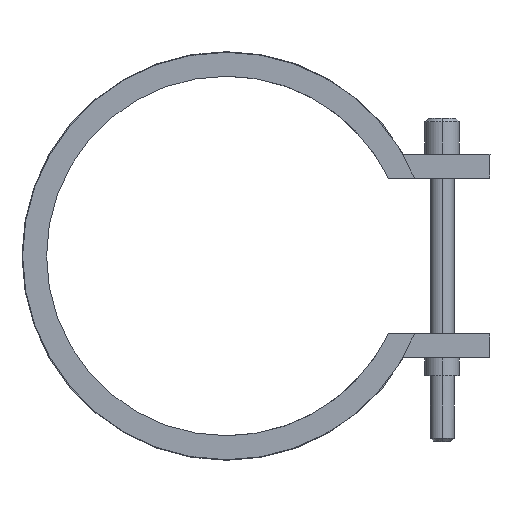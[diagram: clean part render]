
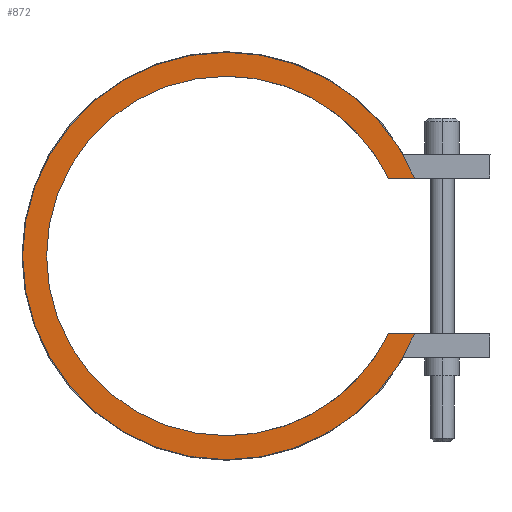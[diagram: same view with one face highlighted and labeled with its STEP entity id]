
A CAD part, left-side view. The second image highlights one B-rep face of the part: STEP entity #872.
In plain terms, the highlighted planar face has unit normal (-1, 0, 0).
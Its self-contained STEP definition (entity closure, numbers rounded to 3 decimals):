
#410=CARTESIAN_POINT('Vertex',(-25.,-27.037,-13.)) ;
#413=CARTESIAN_POINT('Line Origine',(-25.,-29.227,-13.)) ;
#417=CARTESIAN_POINT('Vertex',(-25.,-31.417,-13.)) ;
#463=CARTESIAN_POINT('Vertex',(-25.,0.,-34.)) ;
#466=CARTESIAN_POINT('Axis2P3D Location',(-25.,0.,0.)) ;
#487=CARTESIAN_POINT('Vertex',(-25.,0.,34.)) ;
#490=CARTESIAN_POINT('Axis2P3D Location',(-25.,0.,0.)) ;
#502=CARTESIAN_POINT('Axis2P3D Location',(-25.,0.,0.)) ;
#506=CARTESIAN_POINT('Vertex',(-25.,-31.417,13.)) ;
#526=CARTESIAN_POINT('Line Origine',(-25.,-29.227,13.)) ;
#530=CARTESIAN_POINT('Vertex',(-25.,-27.037,13.)) ;
#818=CARTESIAN_POINT('Axis2P3D Location',(-25.,0.,0.)) ;
#822=CARTESIAN_POINT('Vertex',(-25.,0.,-30.)) ;
#845=CARTESIAN_POINT('Axis2P3D Location',(-25.,0.,0.)) ;
#850=CARTESIAN_POINT('Axis2P3D Location',(-25.,0.,0.)) ;
#854=CARTESIAN_POINT('Vertex',(-25.,0.,30.)) ;
#857=CARTESIAN_POINT('Axis2P3D Location',(-25.,0.,0.)) ;
#414=DIRECTION('Vector Direction',(0.,1.,0.)) ;
#467=DIRECTION('Axis2P3D Direction',(1.,0.,-0.)) ;
#491=DIRECTION('Axis2P3D Direction',(1.,0.,-0.)) ;
#503=DIRECTION('Axis2P3D Direction',(1.,0.,-0.)) ;
#527=DIRECTION('Vector Direction',(0.,-1.,0.)) ;
#819=DIRECTION('Axis2P3D Direction',(1.,0.,-0.)) ;
#846=DIRECTION('Axis2P3D Direction',(1.,0.,0.)) ;
#847=DIRECTION('Axis2P3D XDirection',(0.,0.,-1.)) ;
#851=DIRECTION('Axis2P3D Direction',(1.,0.,0.)) ;
#858=DIRECTION('Axis2P3D Direction',(1.,0.,0.)) ;
#468=AXIS2_PLACEMENT_3D('Circle Axis2P3D',#466,#467,$) ;
#492=AXIS2_PLACEMENT_3D('Circle Axis2P3D',#490,#491,$) ;
#504=AXIS2_PLACEMENT_3D('Circle Axis2P3D',#502,#503,$) ;
#820=AXIS2_PLACEMENT_3D('Circle Axis2P3D',#818,#819,$) ;
#848=AXIS2_PLACEMENT_3D('Plane Axis2P3D',#845,#846,#847) ;
#852=AXIS2_PLACEMENT_3D('Circle Axis2P3D',#850,#851,$) ;
#859=AXIS2_PLACEMENT_3D('Circle Axis2P3D',#857,#858,$) ;
#863=ORIENTED_EDGE('',*,*,#419,.T.) ;
#864=ORIENTED_EDGE('',*,*,#824,.T.) ;
#865=ORIENTED_EDGE('',*,*,#856,.T.) ;
#866=ORIENTED_EDGE('',*,*,#861,.T.) ;
#867=ORIENTED_EDGE('',*,*,#532,.T.) ;
#868=ORIENTED_EDGE('',*,*,#508,.F.) ;
#869=ORIENTED_EDGE('',*,*,#494,.F.) ;
#870=ORIENTED_EDGE('',*,*,#470,.F.) ;
#415=VECTOR('Line Direction',#414,1.) ;
#528=VECTOR('Line Direction',#527,1.) ;
#872=ADVANCED_FACE('14060050',(#871),#849,.F.) ;
#469=CIRCLE('generated circle',#468,34.) ;
#493=CIRCLE('generated circle',#492,34.) ;
#505=CIRCLE('generated circle',#504,34.) ;
#821=CIRCLE('generated circle',#820,30.) ;
#853=CIRCLE('generated circle',#852,30.) ;
#860=CIRCLE('generated circle',#859,30.) ;
#419=EDGE_CURVE('',#418,#411,#416,.T.) ;
#470=EDGE_CURVE('',#418,#464,#469,.T.) ;
#494=EDGE_CURVE('',#464,#488,#493,.T.) ;
#508=EDGE_CURVE('',#488,#507,#505,.T.) ;
#532=EDGE_CURVE('',#531,#507,#529,.T.) ;
#824=EDGE_CURVE('',#411,#823,#821,.T.) ;
#856=EDGE_CURVE('',#823,#855,#853,.T.) ;
#861=EDGE_CURVE('',#855,#531,#860,.T.) ;
#862=EDGE_LOOP('',(#863,#864,#865,#866,#867,#868,#869,#870)) ;
#871=FACE_OUTER_BOUND('',#862,.T.) ;
#416=LINE('Line',#413,#415) ;
#529=LINE('Line',#526,#528) ;
#849=PLANE('Plane',#848) ;
#411=VERTEX_POINT('',#410) ;
#418=VERTEX_POINT('',#417) ;
#464=VERTEX_POINT('',#463) ;
#488=VERTEX_POINT('',#487) ;
#507=VERTEX_POINT('',#506) ;
#531=VERTEX_POINT('',#530) ;
#823=VERTEX_POINT('',#822) ;
#855=VERTEX_POINT('',#854) ;
